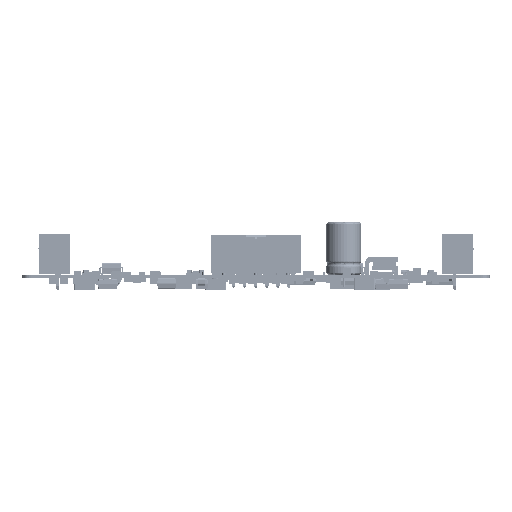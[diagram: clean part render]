
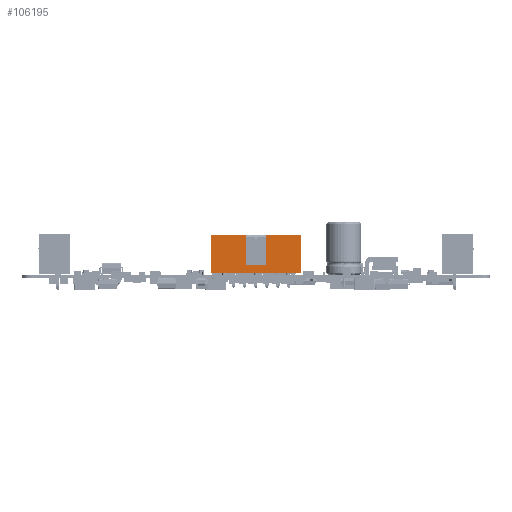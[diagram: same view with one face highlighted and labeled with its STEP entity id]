
A CAD part, left-side view. The second image highlights one B-rep face of the part: STEP entity #106195.
In plain terms, the highlighted planar face has unit normal (-1, 0, 0) as drawn and (0, -1, 0) by its records, which use the part's own axes.
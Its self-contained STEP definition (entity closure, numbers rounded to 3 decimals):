
#993 = DIRECTION ( 'NONE',  ( 0., 1., 0. ) ) ;
#5941 = VERTEX_POINT ( 'NONE', #50586 ) ;
#6469 = CARTESIAN_POINT ( 'NONE',  ( -10.18, -4.425, -4.425 ) ) ;
#10624 = DIRECTION ( 'NONE',  ( 1., 0., 0. ) ) ;
#10660 = CARTESIAN_POINT ( 'NONE',  ( 10.18, -4.425, 4.425 ) ) ;
#10728 = LINE ( 'NONE', #190726, #88934 ) ;
#13308 = VERTEX_POINT ( 'NONE', #34563 ) ;
#13411 = VERTEX_POINT ( 'NONE', #6469 ) ;
#15762 = EDGE_CURVE ( 'NONE', #5941, #85023, #10728, .T. ) ;
#16077 = LINE ( 'NONE', #113860, #57646 ) ;
#22490 = LINE ( 'NONE', #174207, #183834 ) ;
#34563 = CARTESIAN_POINT ( 'NONE',  ( 2.25, -4.425, 4.425 ) ) ;
#41607 = EDGE_CURVE ( 'NONE', #137400, #13308, #87588, .T. ) ;
#45732 = LINE ( 'NONE', #142598, #82379 ) ;
#46034 = VECTOR ( 'NONE', #120029, 1000. ) ;
#50586 = CARTESIAN_POINT ( 'NONE',  ( -2.25, -4.425, 4.425 ) ) ;
#51707 = EDGE_LOOP ( 'NONE', ( #124954, #158652, #98932, #175247, #67276, #137359, #187665, #103614 ) ) ;
#57225 = CARTESIAN_POINT ( 'NONE',  ( 2.25, -4.425, 0. ) ) ;
#57646 = VECTOR ( 'NONE', #146098, 1000. ) ;
#65286 = DIRECTION ( 'NONE',  ( 1., 0., 0. ) ) ;
#67276 = ORIENTED_EDGE ( 'NONE', *, *, #158837, .F. ) ;
#69945 = CARTESIAN_POINT ( 'NONE',  ( 2.25, -4.425, -2.375 ) ) ;
#70981 = LINE ( 'NONE', #72778, #184953 ) ;
#72778 = CARTESIAN_POINT ( 'NONE',  ( 0., -4.425, 4.425 ) ) ;
#78403 = CARTESIAN_POINT ( 'NONE',  ( 10.18, -4.425, -4.425 ) ) ;
#78890 = PLANE ( 'NONE',  #111281 ) ;
#81050 = CARTESIAN_POINT ( 'NONE',  ( 0., -4.425, -2.375 ) ) ;
#82379 = VECTOR ( 'NONE', #126817, 1000. ) ;
#83457 = VECTOR ( 'NONE', #185302, 1000. ) ;
#85023 = VERTEX_POINT ( 'NONE', #148771 ) ;
#87588 = LINE ( 'NONE', #57225, #46034 ) ;
#88934 = VECTOR ( 'NONE', #112742, 1000. ) ;
#93265 = EDGE_CURVE ( 'NONE', #13411, #129668, #125004, .T. ) ;
#98932 = ORIENTED_EDGE ( 'NONE', *, *, #143054, .F. ) ;
#103614 = ORIENTED_EDGE ( 'NONE', *, *, #41607, .F. ) ;
#106195 = ADVANCED_FACE ( 'NONE', ( #181800 ), #78890, .F. ) ;
#109554 = CARTESIAN_POINT ( 'NONE',  ( 0., -4.425, 0. ) ) ;
#110237 = DIRECTION ( 'NONE',  ( 0., 0., 1. ) ) ;
#111281 = AXIS2_PLACEMENT_3D ( 'NONE', #109554, #993, #110237 ) ;
#112742 = DIRECTION ( 'NONE',  ( 0., 0., -1. ) ) ;
#113860 = CARTESIAN_POINT ( 'NONE',  ( 0., -4.425, -4.425 ) ) ;
#120029 = DIRECTION ( 'NONE',  ( 0., 0., 1. ) ) ;
#124954 = ORIENTED_EDGE ( 'NONE', *, *, #194779, .F. ) ;
#125004 = LINE ( 'NONE', #200363, #83457 ) ;
#126817 = DIRECTION ( 'NONE',  ( 1., 0., 0. ) ) ;
#129668 = VERTEX_POINT ( 'NONE', #179649 ) ;
#132542 = VERTEX_POINT ( 'NONE', #78403 ) ;
#137359 = ORIENTED_EDGE ( 'NONE', *, *, #178989, .F. ) ;
#137400 = VERTEX_POINT ( 'NONE', #69945 ) ;
#142598 = CARTESIAN_POINT ( 'NONE',  ( 0., -4.425, 4.425 ) ) ;
#143054 = EDGE_CURVE ( 'NONE', #129668, #5941, #45732, .T. ) ;
#144208 = DIRECTION ( 'NONE',  ( 0., 0., -1. ) ) ;
#146098 = DIRECTION ( 'NONE',  ( -1., 0., 0. ) ) ;
#148771 = CARTESIAN_POINT ( 'NONE',  ( -2.25, -4.425, -2.375 ) ) ;
#154411 = VERTEX_POINT ( 'NONE', #10660 ) ;
#158652 = ORIENTED_EDGE ( 'NONE', *, *, #15762, .F. ) ;
#158837 = EDGE_CURVE ( 'NONE', #132542, #13411, #16077, .T. ) ;
#164011 = EDGE_CURVE ( 'NONE', #13308, #154411, #70981, .T. ) ;
#174207 = CARTESIAN_POINT ( 'NONE',  ( 10.18, -4.425, 0. ) ) ;
#175247 = ORIENTED_EDGE ( 'NONE', *, *, #93265, .F. ) ;
#178989 = EDGE_CURVE ( 'NONE', #154411, #132542, #22490, .T. ) ;
#179649 = CARTESIAN_POINT ( 'NONE',  ( -10.18, -4.425, 4.425 ) ) ;
#181800 = FACE_OUTER_BOUND ( 'NONE', #51707, .T. ) ;
#183834 = VECTOR ( 'NONE', #144208, 1000. ) ;
#184953 = VECTOR ( 'NONE', #10624, 1000. ) ;
#185302 = DIRECTION ( 'NONE',  ( 0., 0., 1. ) ) ;
#185871 = VECTOR ( 'NONE', #65286, 1000. ) ;
#187665 = ORIENTED_EDGE ( 'NONE', *, *, #164011, .F. ) ;
#190726 = CARTESIAN_POINT ( 'NONE',  ( -2.25, -4.425, 0. ) ) ;
#190775 = LINE ( 'NONE', #81050, #185871 ) ;
#194779 = EDGE_CURVE ( 'NONE', #85023, #137400, #190775, .T. ) ;
#200363 = CARTESIAN_POINT ( 'NONE',  ( -10.18, -4.425, 0. ) ) ;
